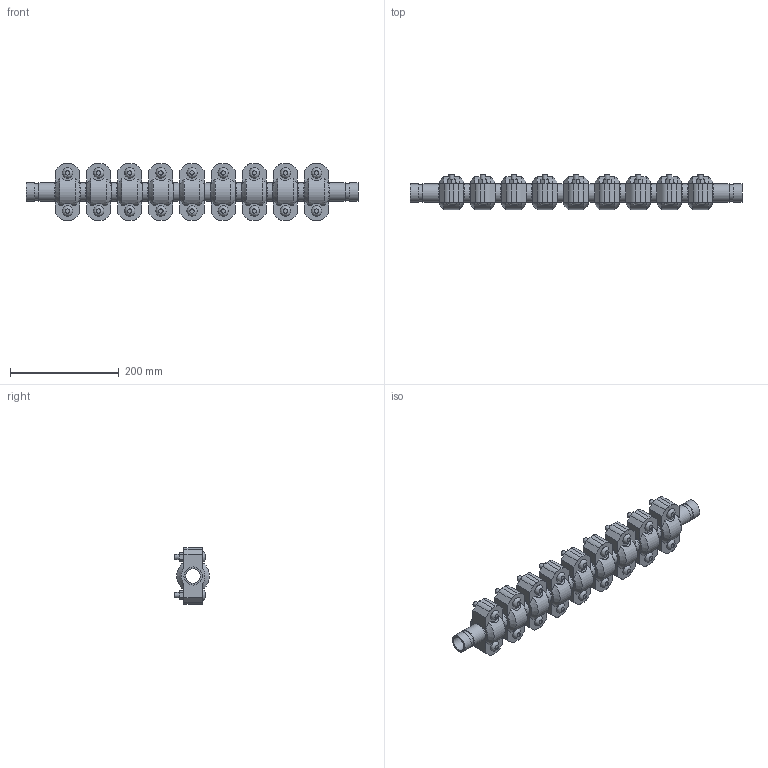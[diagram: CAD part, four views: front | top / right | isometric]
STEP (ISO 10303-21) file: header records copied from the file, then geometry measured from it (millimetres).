
FILE_DESCRIPTION(/* description */ ('VIC EXPANSION JOINT 9 COUPLINGS COMPRESSED STYLE 155 (OGS)','CAx-IF Rec.Pracs.---Representation and Presentation of Product Manufacturing Information (PMI)---4.0---2014-10-13'),/* implementation_level */ '2;1');
FILE_NAME(/* name */ 'C:\Users\kkamble\AppData\Roaming\Autodesk\ApplicationPlugins\Victaulic.Temp\A901\Victaulic_IPS_Expansion Joint_Compressed_9 Couplings_Style 155 (OGS)_1 (25).stp',/* time_stamp */ '2021-06-27T00:37:53+02:00',/* author */ ('kkamble'),/* organization */ ('Victaulic'),/* preprocessor_version */ 'ST-DEVELOPER v17.2',/* originating_system */ 'Autodesk Inventor 2019',/* authorisation */ '');
FILE_SCHEMA (('AP242_MANAGED_MODEL_BASED_3D_ENGINEERING_MIM_LF { 1 0 10303 442 1 1 4 }'));
Length unit declared in the file: inch
Products named in the file (4): 155-01.0; Nipple-01.0; Nipple-01.0_1; 077-01.0
Assembly tree (19 placements, depth 2):
  155-01.0
    Nipple-01.0  x2
    Nipple-01.0_1  x8
    077-01.0  x9
Bounding box: 609.6 x 64.33 x 104.65 mm (x, y, z)
Volume: 1476083.4 mm3; surface area: 383689.2 mm2
Topology: 19 solids, 37 shells, 633 faces, 1551 edges, 1086 vertices
Faces by surface type: plane 366, cylinder 213, cone 36, bspline 18
Full cylindrical faces by diameter (mm): 9.525 x36, 11.43 x18, 26.645 x10, 30.226 x20, 33.401 x39
Entity records: 2955 total; most frequent: CARTESIAN_POINT 565, DIRECTION 483, ORIENTED_EDGE 398, EDGE_CURVE 199, AXIS2_PLACEMENT_3D 194, VERTEX_POINT 142, EDGE_LOOP 105, LINE 95
